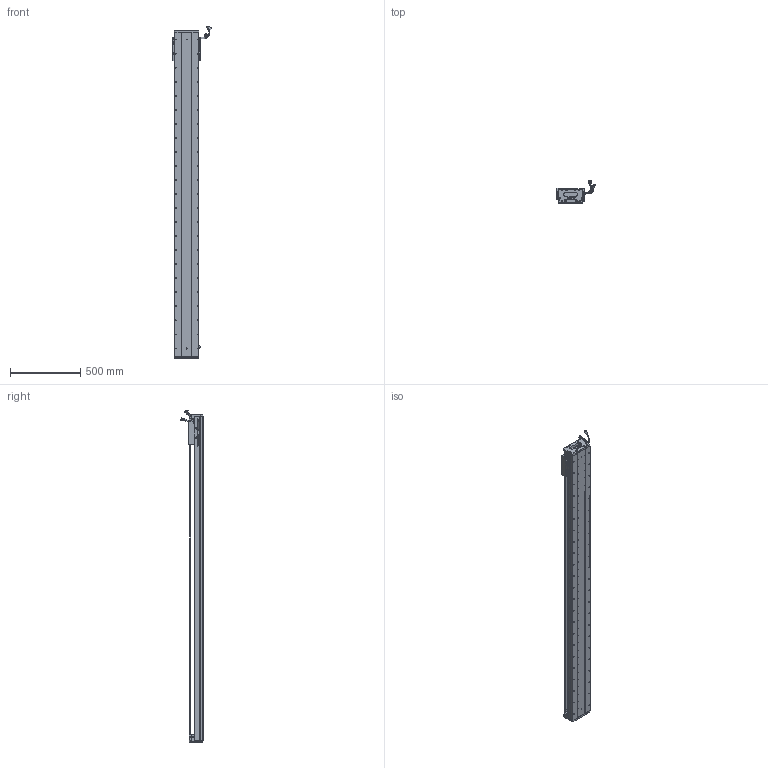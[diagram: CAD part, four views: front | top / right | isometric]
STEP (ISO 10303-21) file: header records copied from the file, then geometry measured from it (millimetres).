
FILE_DESCRIPTION (( 'STEP AP203' ), '1' );
FILE_NAME ('Z2-RY170D-1-L500-B-K.SLDASM_2050.step', '2021-05-17T09:09:45', ( '盈信电脑' ), ( '东莞市道滘镇水果街19号' ), 'SwSTEP 2.0', 'SolidWorks 2016', '' );
FILE_SCHEMA (( 'CONFIG_CONTROL_DESIGN' ));
Length unit declared in the file: millimetre
Products named in the file (36): SEAL-Part-1; Z-RY170詩湍奻揤裔; RY170直线电机感应器672光电感应片; SCREW-M1.7-1; Z2-RY170D-1-L500-B-K.SLDASM_2050; 080黍杅芛假蚾釱21遴; SEAL; HOLDER0; SCREW-M1.6; COVER-Part-1; 榋妏寠巭燃_暯_M2_2; SCREW-M1.6-2; 140雄赽晤鎢ん堤盄; HARNESS-Part-1; SCREW-M1.6-3; Z2-RY170-L500耀郪菁釱_2050; Z-170詩湍傷裔啣; SCREW-M1.7; COVER; 覜茼ん672; Z-RY170詩湍狟揤裔; PBU_SHEET; HARNESS-Part-2; HARNESS; SHIELDPLATE; 140蚥薯蝶輸; SCALE; Z2-RY170-L500詩湍145mm遵_2050; SCREW-M1.6-1; SCALE-Part-1; 170-Z-臏賑輸盄裔(21遴); PSLH080_PSLF2; LABEL-Part-1; Z2-RY170臏賑輸(21遴); SCALE-Part-2; LABEL
Assembly tree (41 placements, depth 4):
  Z2-RY170D-1-L500-B-K.SLDASM_2050
    Z2-RY170-L500耀郪菁釱_2050
    RY170直线电机感应器672光电感应片
    Z2-RY170臏賑輸(21遴)
    覜茼ん672  x3
    PSLH080_PSLF2
      SCALE
        SCALE-Part-1
        SCALE-Part-2
      HARNESS
        HARNESS-Part-1
        HARNESS-Part-2
      LABEL
        LABEL-Part-1
      COVER
        COVER-Part-1
      SEAL
        SEAL-Part-1
      榋妏寠巭燃_暯_M2_2
      SHIELDPLATE
      SCREW-M1.7
      SCREW-M1.7-1
      PBU_SHEET
      SCREW-M1.6
      SCREW-M1.6-1
      SCREW-M1.6-2
      SCREW-M1.6-3
      HOLDER0
    080黍杅芛假蚾釱21遴
    Z2-RY170-L500詩湍145mm遵_2050
    Z-170詩湍傷裔啣  x2
    Z-RY170詩湍奻揤裔  x2
    Z-RY170詩湍狟揤裔  x2
    140蚥薯蝶輸  x2
    170-Z-臏賑輸盄裔(21遴)
    140雄赽晤鎢ん堤盄
Bounding box: 275.34 x 158.11 x 2363.72 mm (x, y, z)
Volume: 11694366.4 mm3; surface area: 2895154.3 mm2
Topology: 36 solids, 36 shells, 3888 faces, 10735 edges, 6711 vertices
Faces by surface type: cylinder 1934, plane 1288, cone 544, torus 69, bspline 53
Entity records: 121415 total; most frequent: CARTESIAN_POINT 33640, ORIENTED_EDGE 17986, DIRECTION 16865, EDGE_CURVE 8993, AXIS2_PLACEMENT_3D 6210, VERTEX_POINT 5829, LINE 4445, VECTOR 4445
